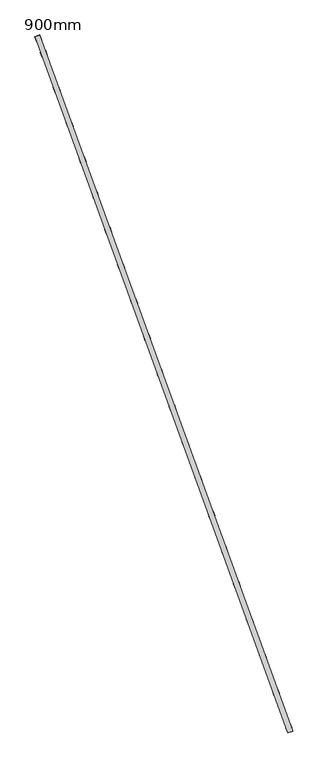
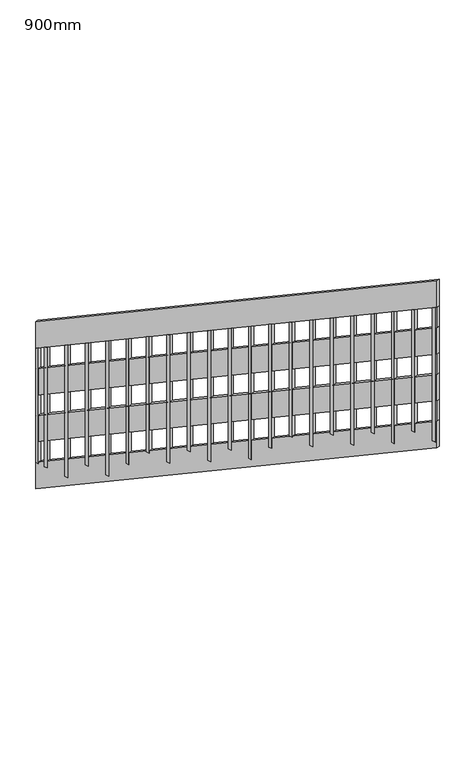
"""IFC4 building model written with IfcOpenShell, lengths in millimetres: railing geometry, 900mm."""

from ifc_helpers import new_model, si_unit, frame, origin, place, context, project, spatial, polyline, outline, extrude, source, transform, mapped, element, save


def railing_900mm_3a6d2b0b(model_context):
    return source(origin(), model_context, "Body", "SweptSolid", [
        extrude(outline(polyline([(80.7272728, -148.0000001), (0.0, 0.0), (3132.4910216, 0.0), (3213.2182943, -148.0), (80.7272728, -148.0000001)])), frame((18723.4162084, 27110.1412206, 6967.778665), z_axis=(0.9396926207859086, 0.34202014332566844, 0.0), x_axis=(0.30025796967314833, -0.8249519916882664, 0.4788521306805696)), (0.0, 0.0, 1.0), 19.0),
        extrude(outline(polyline([(80.7272728, -148.0000001), (0.0, 0.0), (3132.4910216, 0.0), (3213.2182943, -148.0), (80.7272728, -148.0000001)])), frame((18723.4162084, 27110.1412206, 6667.778665), z_axis=(0.9396926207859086, 0.3420201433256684, 0.0), x_axis=(0.3002579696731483, -0.8249519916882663, 0.4788521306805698)), (0.0, 0.0, 1.0), 19.0),
        extrude(outline(polyline([(80.7272728, -148.0000001), (0.0, 0.0), (3132.4910216, 0.0), (3213.2182943, -148.0), (80.7272728, -148.0000001)])), frame((18723.4162084, 27110.1412206, 6367.778665), z_axis=(0.9396926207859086, 0.34202014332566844, 0.0), x_axis=(0.30025796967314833, -0.8249519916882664, 0.4788521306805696)), (0.0, 0.0, 1.0), 19.0),
        extrude(outline(polyline([(80.7272728, -148.0000001), (0.0, 0.0), (3132.4910216, 0.0), (3213.2182943, -148.0), (80.7272728, -148.0000001)])), frame((18723.4162084, 27110.1412206, 6067.778665), z_axis=(0.9396926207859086, 0.3420201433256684, 0.0), x_axis=(0.3002579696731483, -0.8249519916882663, 0.4788521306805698)), (0.0, 0.0, 1.0), 19.0),
        extrude(outline(polyline([(105.4545454, 0.0), (956.8695741, 0.0), (956.8695741, -20.0000001), (94.5454545, -20.0000001), (105.4545454, 0.0)])), frame((19653.241152, 24554.006282, 8556.8695741), z_axis=(0.9396926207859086, 0.34202014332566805, 0.0), x_axis=(0.0, 0.0, -1.0)), (0.0, 0.0, 1.0), 20.0),
        extrude(outline(polyline([(105.4545455, 0.0), (880.5059378, 0.0), (880.5059378, -20.0), (94.5454546, -20.0), (105.4545455, 0.0)])), frame((19605.3583319, 24685.5632489, 8480.5059378), z_axis=(0.9396926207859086, 0.34202014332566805, 0.0), x_axis=(0.0, 0.0, -1.0)), (0.0, 0.0, 1.0), 20.0),
        extrude(outline(polyline([(105.4545455, 0.0), (940.5059378, 0.0), (940.5059378, -20.0), (94.5454546, -20.0), (105.4545455, 0.0)])), frame((19557.4755118, 24817.1202158, 8404.1423014), z_axis=(0.9396926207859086, 0.34202014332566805, 0.0), x_axis=(0.0, 0.0, -1.0)), (0.0, 0.0, 1.0), 20.0),
        extrude(outline(polyline([(105.4545454, 0.0), (864.1423014, 0.0), (864.1423014, -20.0), (94.5454545, -20.0), (105.4545454, 0.0)])), frame((19509.5926918, 24948.6771827, 8327.778665), z_axis=(0.9396926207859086, 0.34202014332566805, 0.0), x_axis=(0.0, 0.0, -1.0)), (0.0, 0.0, 1.0), 20.0),
        extrude(outline(polyline([(105.4545455, 0.0), (924.1423014, 0.0), (924.1423014, -20.0), (94.5454546, -20.0), (105.4545455, 0.0)])), frame((19461.7098717, 25080.2341496, 8251.4150287), z_axis=(0.9396926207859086, 0.34202014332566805, 0.0), x_axis=(0.0, 0.0, -1.0)), (0.0, 0.0, 1.0), 20.0),
        extrude(outline(polyline([(105.4545455, 0.0), (847.778665, 0.0), (847.778665, -20.0), (94.5454545, -20.0), (105.4545455, 0.0)])), frame((19413.8270516, 25211.7911165, 8175.0513923), z_axis=(0.9396926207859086, 0.34202014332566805, 0.0), x_axis=(0.0, 0.0, -1.0)), (0.0, 0.0, 1.0), 20.0),
        extrude(outline(polyline([(105.4545454, 0.0), (907.778665, 0.0), (907.778665, -20.0), (94.5454545, -20.0), (105.4545454, 0.0)])), frame((19365.9442316, 25343.3480834, 8098.6877559), z_axis=(0.9396926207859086, 0.34202014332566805, 0.0), x_axis=(0.0, 0.0, -1.0)), (0.0, 0.0, 1.0), 20.0),
        extrude(outline(polyline([(105.4545455, 0.0), (831.4150287, 0.0), (831.4150287, -20.0), (94.5454546, -20.0), (105.4545455, 0.0)])), frame((19318.0614115, 25474.9050503, 8022.3241196), z_axis=(0.9396926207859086, 0.34202014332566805, 0.0), x_axis=(0.0, 0.0, -1.0)), (0.0, 0.0, 1.0), 20.0),
        extrude(outline(polyline([(105.4545454, 0.0), (891.4150287, 0.0), (891.4150287, -20.0), (94.5454545, -20.0), (105.4545454, 0.0)])), frame((19270.1785914, 25606.4620172, 7945.9604832), z_axis=(0.9396926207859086, 0.34202014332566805, 0.0), x_axis=(0.0, 0.0, -1.0)), (0.0, 0.0, 1.0), 20.0),
        extrude(outline(polyline([(105.4545454, 0.0), (951.4150286, 0.0), (951.4150286, -20.0), (94.5454545, -20.0), (105.4545454, 0.0)])), frame((19222.2957714, 25738.0189841, 7869.5968468), z_axis=(0.9396926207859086, 0.34202014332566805, 0.0), x_axis=(0.0, 0.0, -1.0)), (0.0, 0.0, 1.0), 20.0),
        extrude(outline(polyline([(105.4545455, 0.0), (875.0513923, 0.0), (875.0513923, -20.0000001), (94.5454546, -20.0000001), (105.4545455, 0.0)])), frame((19174.4129513, 25869.5759511, 7793.2332105), z_axis=(0.9396926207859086, 0.34202014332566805, 0.0), x_axis=(0.0, 0.0, -1.0)), (0.0, 0.0, 1.0), 20.0),
        extrude(outline(polyline([(105.4545454, 0.0), (935.0513923, 0.0), (935.0513923, -20.0), (94.5454545, -20.0), (105.4545454, 0.0)])), frame((19126.5301312, 26001.132918, 7716.8695741), z_axis=(0.9396926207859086, 0.34202014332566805, 0.0), x_axis=(0.0, 0.0, -1.0)), (0.0, 0.0, 1.0), 20.0),
        extrude(outline(polyline([(105.4545455, 0.0), (858.687756, 0.0), (858.687756, -20.0), (94.5454546, -20.0), (105.4545455, 0.0)])), frame((19078.6473112, 26132.6898849, 7640.5059378), z_axis=(0.9396926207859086, 0.34202014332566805, 0.0), x_axis=(0.0, 0.0, -1.0)), (0.0, 0.0, 1.0), 20.0),
        extrude(outline(polyline([(105.4545455, 0.0), (918.6877559, 0.0), (918.6877559, -20.0), (94.5454546, -20.0), (105.4545455, 0.0)])), frame((19030.7644911, 26264.2468518, 7564.1423014), z_axis=(0.9396926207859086, 0.34202014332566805, 0.0), x_axis=(0.0, 0.0, -1.0)), (0.0, 0.0, 1.0), 20.0),
        extrude(outline(polyline([(105.4545454, 0.0), (842.3241195, 0.0), (842.3241195, -20.0), (94.5454545, -20.0), (105.4545454, 0.0)])), frame((18982.8816711, 26395.8038187, 7487.778665), z_axis=(0.9396926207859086, 0.34202014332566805, 0.0), x_axis=(0.0, 0.0, -1.0)), (0.0, 0.0, 1.0), 20.0),
        extrude(outline(polyline([(105.4545455, 0.0), (902.3241196, 0.0), (902.3241196, -20.0), (94.5454546, -20.0), (105.4545455, 0.0)])), frame((18934.998851, 26527.3607856, 7411.4150287), z_axis=(0.9396926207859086, 0.34202014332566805, 0.0), x_axis=(0.0, 0.0, -1.0)), (0.0, 0.0, 1.0), 20.0),
        extrude(outline(polyline([(105.4545455, 0.0), (962.3241196, 0.0), (962.3241196, -20.0), (94.5454545, -20.0), (105.4545455, 0.0)])), frame((18887.1160309, 26658.9177525, 7335.0513923), z_axis=(0.9396926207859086, 0.34202014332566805, 0.0), x_axis=(0.0, 0.0, -1.0)), (0.0, 0.0, 1.0), 20.0),
        extrude(outline(polyline([(105.4545454, 0.0), (885.9604832, 0.0), (885.9604832, -20.0), (94.5454545, -20.0), (105.4545454, 0.0)])), frame((18839.2332109, 26790.4747194, 7258.6877559), z_axis=(0.9396926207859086, 0.34202014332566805, 0.0), x_axis=(0.0, 0.0, -1.0)), (0.0, 0.0, 1.0), 20.0),
        extrude(outline(polyline([(105.4545455, 0.0), (945.9604832, 0.0), (945.9604832, -20.0), (94.5454546, -20.0), (105.4545455, 0.0)])), frame((18791.3503908, 26922.0316863, 7182.3241196), z_axis=(0.9396926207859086, 0.34202014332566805, 0.0), x_axis=(0.0, 0.0, -1.0)), (0.0, 0.0, 1.0), 20.0),
        extrude(outline(polyline([(105.4545454, 0.0), (869.5968468, 0.0), (869.5968468, -20.0), (94.5454545, -20.0), (105.4545454, 0.0)])), frame((18743.4675707, 27053.5886532, 7105.9604832), z_axis=(0.9396926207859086, 0.34202014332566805, 0.0), x_axis=(0.0, 0.0, -1.0)), (0.0, 0.0, 1.0), 20.0),
        extrude(outline(polyline([(105.4545455, 0.0), (962.3241196, 0.0), (962.3241196, -20.0000001), (94.5454546, -20.0000001), (105.4545455, 0.0)])), frame((19656.6613534, 24544.6093558, 8562.3241196), z_axis=(0.9396926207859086, 0.34202014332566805, 0.0), x_axis=(0.0, 0.0, -1.0)), (0.0, 0.0, 1.0), 20.0),
        extrude(outline(polyline([(105.4545455, 0.0), (836.8695741, 0.0), (836.8695741, -20.0), (94.5454546, -20.0), (105.4545455, 0.0)])), frame((18722.9463621, 27109.9702105, 7073.2332105), z_axis=(0.9396926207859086, 0.34202014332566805, 0.0), x_axis=(0.0, 0.0, -1.0)), (0.0, 0.0, 1.0), 20.0),
    ])


if __name__ == "__main__":
    model = new_model("IFC4")
    model_context = context("Model", 3, world=origin())
    ifc_project = project(units=[si_unit("LENGTHUNIT", "METRE", prefix="MILLI")], contexts=[model_context])
    site = spatial("IfcSite", under=ifc_project)
    building = spatial("IfcBuilding", under=site)
    placement = place(None, origin())
    railing_900mm_shape = railing_900mm_3a6d2b0b(model_context)
    element("IfcRailing", 1, ObjectType="900mm", at=placement, inside=building, context=model_context, shape_type="MappedRepresentation", body=[
        mapped(railing_900mm_shape, transform((0.0, 0.0, 0.0), x_axis=(1.0, 0.0, 0.0), y_axis=(0.0, 1.0, 0.0), z_axis=(0.0, 0.0, 1.0))),
    ])
    save(model, "model.ifc")
